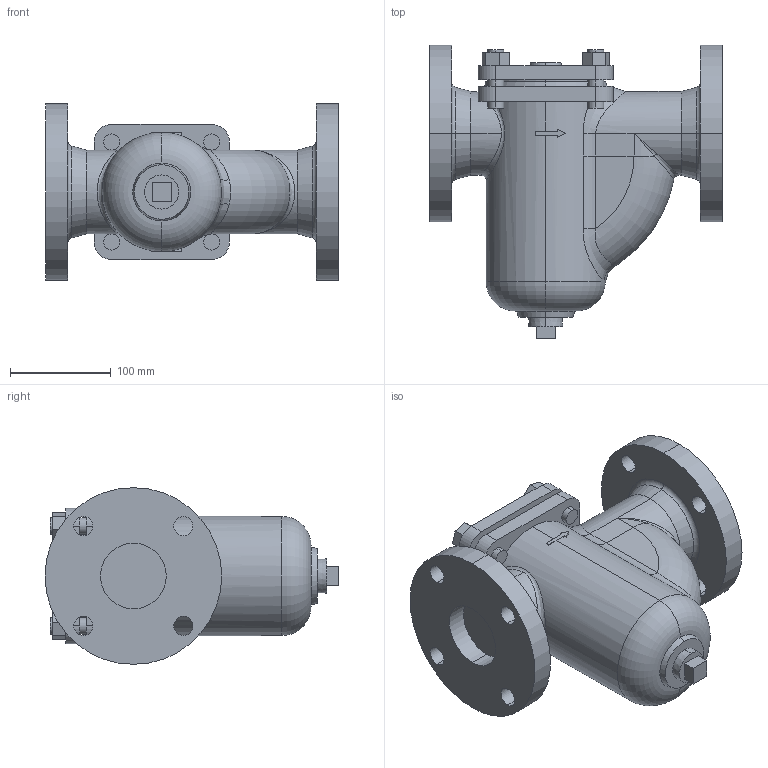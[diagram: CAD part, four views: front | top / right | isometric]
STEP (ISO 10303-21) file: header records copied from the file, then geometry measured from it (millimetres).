
FILE_DESCRIPTION (( 'STEP AP203' ), '1' );
FILE_NAME ('SU-20 65A.STEP', '2025-12-12T06:04:22', ( '' ), ( '' ), 'SwSTEP 2.0', 'SolidWorks 2024', '' );
FILE_SCHEMA (( 'CONFIG_CONTROL_DESIGN' ));
Length unit declared in the file: millimetre
Products named in the file (1): SU-20 65A
Bounding box: 290 x 291.1 x 175 mm (x, y, z)
Volume: 4864029.5 mm3; surface area: 297911.5 mm2
Topology: 1 solids, 1 shells, 188 faces, 456 edges, 291 vertices
Faces by surface type: plane 88, cylinder 71, cone 12, bspline 8, torus 7, sphere 2
Entity records: 7325 total; most frequent: CARTESIAN_POINT 2728, DIRECTION 972, ORIENTED_EDGE 908, EDGE_CURVE 454, AXIS2_PLACEMENT_3D 365, VERTEX_POINT 291, VECTOR 242, LINE 242
